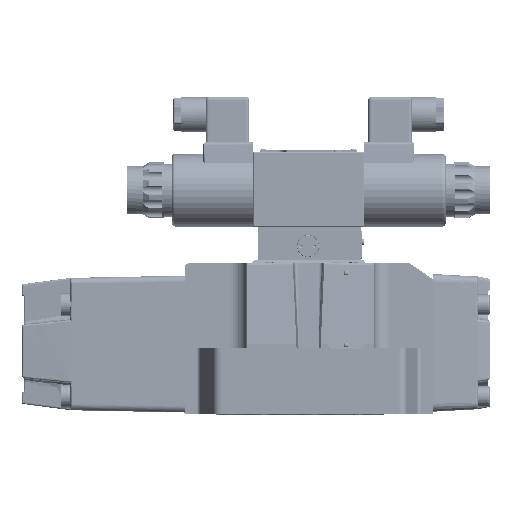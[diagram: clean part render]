
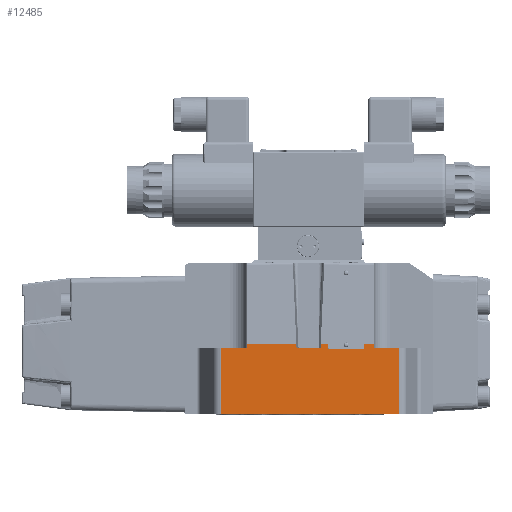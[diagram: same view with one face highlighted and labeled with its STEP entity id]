
A CAD part, front view. The second image highlights one B-rep face of the part: STEP entity #12485.
In plain terms, the highlighted planar face has unit normal (0, -1, 0).
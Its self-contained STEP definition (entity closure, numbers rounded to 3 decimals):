
#3543=CIRCLE('',#77879,0.9);
#12485=ADVANCED_FACE('',(#18339),#16646,.T.);
#16646=PLANE('',#77880);
#18339=FACE_OUTER_BOUND('',#22291,.T.);
#22291=EDGE_LOOP('',(#31540,#31541,#31542,#31543,#31544,#31545,#31546,#31547,
#31548,#31549,#31550,#31551,#31552,#31553));
#31540=ORIENTED_EDGE('',*,*,#59071,.F.);
#31541=ORIENTED_EDGE('',*,*,#58790,.F.);
#31542=ORIENTED_EDGE('',*,*,#59072,.T.);
#31543=ORIENTED_EDGE('',*,*,#58803,.F.);
#31544=ORIENTED_EDGE('',*,*,#59073,.T.);
#31545=ORIENTED_EDGE('',*,*,#59074,.F.);
#31546=ORIENTED_EDGE('',*,*,#59075,.F.);
#31547=ORIENTED_EDGE('',*,*,#59076,.F.);
#31548=ORIENTED_EDGE('',*,*,#59077,.F.);
#31549=ORIENTED_EDGE('',*,*,#59010,.F.);
#31550=ORIENTED_EDGE('',*,*,#59078,.T.);
#31551=ORIENTED_EDGE('',*,*,#59079,.T.);
#31552=ORIENTED_EDGE('',*,*,#59080,.F.);
#31553=ORIENTED_EDGE('',*,*,#59081,.F.);
#51611=VERTEX_POINT('',#133985);
#51612=VERTEX_POINT('',#133986);
#51624=VERTEX_POINT('',#134017);
#51625=VERTEX_POINT('',#134019);
#51806=VERTEX_POINT('',#134967);
#51807=VERTEX_POINT('',#134969);
#51850=VERTEX_POINT('',#135365);
#51851=VERTEX_POINT('',#135368);
#51852=VERTEX_POINT('',#135370);
#51853=VERTEX_POINT('',#135372);
#51854=VERTEX_POINT('',#135374);
#51855=VERTEX_POINT('',#135377);
#51856=VERTEX_POINT('',#135379);
#51857=VERTEX_POINT('',#135381);
#58790=EDGE_CURVE('',#51611,#51612,#68902,.T.);
#58803=EDGE_CURVE('',#51624,#51625,#68906,.T.);
#59010=EDGE_CURVE('',#51806,#51807,#68966,.T.);
#59071=EDGE_CURVE('',#51612,#51850,#3543,.T.);
#59072=EDGE_CURVE('',#51611,#51625,#69015,.T.);
#59073=EDGE_CURVE('',#51624,#51851,#69016,.T.);
#59074=EDGE_CURVE('',#51852,#51851,#69017,.T.);
#59075=EDGE_CURVE('',#51853,#51852,#69018,.T.);
#59076=EDGE_CURVE('',#51854,#51853,#69019,.T.);
#59077=EDGE_CURVE('',#51807,#51854,#69020,.T.);
#59078=EDGE_CURVE('',#51806,#51855,#69021,.T.);
#59079=EDGE_CURVE('',#51855,#51856,#69022,.T.);
#59080=EDGE_CURVE('',#51857,#51856,#69023,.T.);
#59081=EDGE_CURVE('',#51850,#51857,#69024,.T.);
#68902=LINE('',#133984,#73136);
#68906=LINE('',#134018,#73140);
#68966=LINE('',#134968,#73200);
#69015=LINE('',#135366,#73249);
#69016=LINE('',#135367,#73250);
#69017=LINE('',#135369,#73251);
#69018=LINE('',#135371,#73252);
#69019=LINE('',#135373,#73253);
#69020=LINE('',#135375,#73254);
#69021=LINE('',#135376,#73255);
#69022=LINE('',#135378,#73256);
#69023=LINE('',#135380,#73257);
#69024=LINE('',#135382,#73258);
#73136=VECTOR('',#85108,1.);
#73140=VECTOR('',#85136,1.);
#73200=VECTOR('',#85416,1.);
#73249=VECTOR('',#85507,1.);
#73250=VECTOR('',#85508,1.);
#73251=VECTOR('',#85509,1.);
#73252=VECTOR('',#85510,1.);
#73253=VECTOR('',#85511,1.);
#73254=VECTOR('',#85512,1.);
#73255=VECTOR('',#85513,1.);
#73256=VECTOR('',#85514,1.);
#73257=VECTOR('',#85515,1.);
#73258=VECTOR('',#85516,1.);
#77879=AXIS2_PLACEMENT_3D('',#135364,#85505,#85506);
#77880=AXIS2_PLACEMENT_3D('',#135383,#85517,#85518);
#85108=DIRECTION('',(1.,0.,0.));
#85136=DIRECTION('',(1.,0.,0.));
#85416=DIRECTION('',(-1.,0.,0.));
#85505=DIRECTION('',(0.,-1.,0.));
#85506=DIRECTION('',(0.,0.,-1.));
#85507=DIRECTION('',(-0.053,0.,-0.999));
#85508=DIRECTION('',(-0.053,0.,0.999));
#85509=DIRECTION('',(1.,0.,0.));
#85510=DIRECTION('',(0.,0.,1.));
#85511=DIRECTION('',(1.,0.,0.));
#85512=DIRECTION('',(0.,0.,1.));
#85513=DIRECTION('',(0.,0.,1.));
#85514=DIRECTION('',(-1.,0.,0.));
#85515=DIRECTION('',(0.,0.,-1.));
#85516=DIRECTION('',(1.,0.,0.));
#85517=DIRECTION('',(0.,-1.,0.));
#85518=DIRECTION('',(0.,0.,-1.));
#133984=CARTESIAN_POINT('',(392.63,299.484,-285.6));
#133985=CARTESIAN_POINT('',(490.205,299.484,-285.6));
#133986=CARTESIAN_POINT('',(505.174,299.484,-285.6));
#134017=CARTESIAN_POINT('',(475.181,299.484,-288.));
#134018=CARTESIAN_POINT('',(428.227,299.484,-288.));
#134019=CARTESIAN_POINT('',(490.079,299.484,-288.));
#134967=CARTESIAN_POINT('',(538.748,299.484,-329.));
#134968=CARTESIAN_POINT('',(428.227,299.484,-329.));
#134969=CARTESIAN_POINT('',(428.227,299.484,-329.));
#135364=CARTESIAN_POINT('',(505.942,299.484,-286.069));
#135365=CARTESIAN_POINT('',(506.71,299.484,-285.6));
#135366=CARTESIAN_POINT('',(487.547,299.484,-336.121));
#135367=CARTESIAN_POINT('',(477.413,299.484,-330.412));
#135368=CARTESIAN_POINT('',(475.055,299.484,-285.6));
#135369=CARTESIAN_POINT('',(392.63,299.484,-285.6));
#135370=CARTESIAN_POINT('',(444.13,299.484,-285.6));
#135371=CARTESIAN_POINT('',(444.13,299.484,-333.));
#135372=CARTESIAN_POINT('',(444.13,299.484,-288.));
#135373=CARTESIAN_POINT('',(428.227,299.484,-288.));
#135374=CARTESIAN_POINT('',(428.227,299.484,-288.));
#135375=CARTESIAN_POINT('',(428.227,299.484,-333.));
#135376=CARTESIAN_POINT('',(538.748,299.484,-333.));
#135377=CARTESIAN_POINT('',(538.748,299.484,-288.));
#135378=CARTESIAN_POINT('',(538.748,299.484,-288.));
#135379=CARTESIAN_POINT('',(523.23,299.484,-288.));
#135380=CARTESIAN_POINT('',(523.23,299.484,-288.));
#135381=CARTESIAN_POINT('',(523.23,299.484,-285.6));
#135382=CARTESIAN_POINT('',(392.63,299.484,-285.6));
#135383=CARTESIAN_POINT('',(428.227,299.484,-333.));
